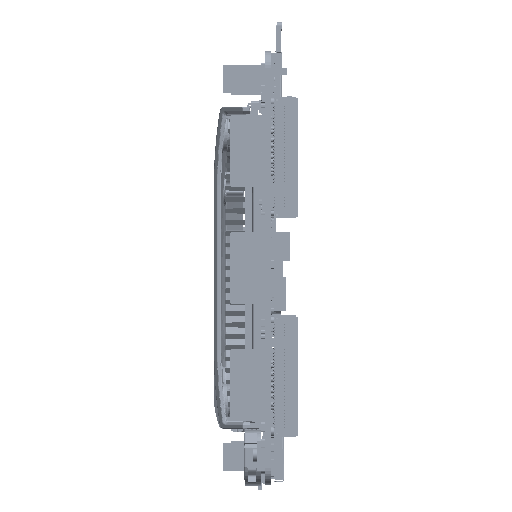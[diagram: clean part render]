
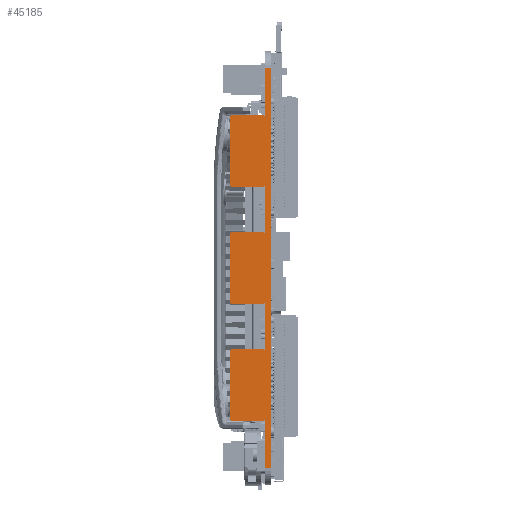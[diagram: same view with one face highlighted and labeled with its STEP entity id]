
A CAD part, left-side view. The second image highlights one B-rep face of the part: STEP entity #45185.
In plain terms, the highlighted planar face has unit normal (-1, 0, 0).
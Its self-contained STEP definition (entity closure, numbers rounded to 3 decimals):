
#15890=CIRCLE('',#523636,0.5);
#15891=CIRCLE('',#523637,0.5);
#15892=CIRCLE('',#523638,0.5);
#15893=CIRCLE('',#523639,0.5);
#15894=CIRCLE('',#523640,0.5);
#15895=CIRCLE('',#523641,0.5);
#15896=CIRCLE('',#523642,0.5);
#15897=CIRCLE('',#523643,0.5);
#15898=CIRCLE('',#523644,0.5);
#15899=CIRCLE('',#523645,0.5);
#15900=CIRCLE('',#523646,0.5);
#15901=CIRCLE('',#523647,0.5);
#45185=ADVANCED_FACE('',(#92146),#70527,.T.);
#70527=PLANE('',#523648);
#92146=FACE_OUTER_BOUND('',#119882,.T.);
#119882=EDGE_LOOP('',(#182157,#182158,#182159,#182160,#182161,#182162,#182163,
#182164,#182165,#182166,#182167,#182168,#182169,#182170,#182171,#182172,
#182173,#182174,#182175,#182176,#182177,#182178,#182179,#182180,#182181,
#182182,#182183,#182184));
#182157=ORIENTED_EDGE('',*,*,#351530,.T.);
#182158=ORIENTED_EDGE('',*,*,#352180,.F.);
#182159=ORIENTED_EDGE('',*,*,#347832,.F.);
#182160=ORIENTED_EDGE('',*,*,#352181,.T.);
#182161=ORIENTED_EDGE('',*,*,#352182,.T.);
#182162=ORIENTED_EDGE('',*,*,#352183,.T.);
#182163=ORIENTED_EDGE('',*,*,#352184,.F.);
#182164=ORIENTED_EDGE('',*,*,#352185,.T.);
#182165=ORIENTED_EDGE('',*,*,#352186,.F.);
#182166=ORIENTED_EDGE('',*,*,#352187,.T.);
#182167=ORIENTED_EDGE('',*,*,#347810,.F.);
#182168=ORIENTED_EDGE('',*,*,#352188,.T.);
#182169=ORIENTED_EDGE('',*,*,#352189,.T.);
#182170=ORIENTED_EDGE('',*,*,#352190,.T.);
#182171=ORIENTED_EDGE('',*,*,#352191,.F.);
#182172=ORIENTED_EDGE('',*,*,#352192,.T.);
#182173=ORIENTED_EDGE('',*,*,#352193,.F.);
#182174=ORIENTED_EDGE('',*,*,#352194,.T.);
#182175=ORIENTED_EDGE('',*,*,#347788,.F.);
#182176=ORIENTED_EDGE('',*,*,#352195,.T.);
#182177=ORIENTED_EDGE('',*,*,#352196,.T.);
#182178=ORIENTED_EDGE('',*,*,#352197,.T.);
#182179=ORIENTED_EDGE('',*,*,#352198,.F.);
#182180=ORIENTED_EDGE('',*,*,#352199,.T.);
#182181=ORIENTED_EDGE('',*,*,#352200,.F.);
#182182=ORIENTED_EDGE('',*,*,#352201,.T.);
#182183=ORIENTED_EDGE('',*,*,#347766,.F.);
#182184=ORIENTED_EDGE('',*,*,#352179,.T.);
#294403=VERTEX_POINT('',#730865);
#294404=VERTEX_POINT('',#730867);
#294425=VERTEX_POINT('',#730909);
#294426=VERTEX_POINT('',#730911);
#294447=VERTEX_POINT('',#730953);
#294448=VERTEX_POINT('',#730955);
#294469=VERTEX_POINT('',#730997);
#294470=VERTEX_POINT('',#730999);
#298167=VERTEX_POINT('',#738394);
#298168=VERTEX_POINT('',#738396);
#298567=VERTEX_POINT('',#739679);
#298568=VERTEX_POINT('',#739681);
#298569=VERTEX_POINT('',#739683);
#298570=VERTEX_POINT('',#739685);
#298571=VERTEX_POINT('',#739687);
#298572=VERTEX_POINT('',#739689);
#298573=VERTEX_POINT('',#739692);
#298574=VERTEX_POINT('',#739694);
#298575=VERTEX_POINT('',#739696);
#298576=VERTEX_POINT('',#739698);
#298577=VERTEX_POINT('',#739700);
#298578=VERTEX_POINT('',#739702);
#298579=VERTEX_POINT('',#739705);
#298580=VERTEX_POINT('',#739707);
#298581=VERTEX_POINT('',#739709);
#298582=VERTEX_POINT('',#739711);
#298583=VERTEX_POINT('',#739713);
#298584=VERTEX_POINT('',#739715);
#347766=EDGE_CURVE('',#294403,#294404,#415057,.T.);
#347788=EDGE_CURVE('',#294425,#294426,#415074,.T.);
#347810=EDGE_CURVE('',#294447,#294448,#415091,.T.);
#347832=EDGE_CURVE('',#294469,#294470,#415108,.T.);
#351530=EDGE_CURVE('',#298168,#298167,#417944,.T.);
#352179=EDGE_CURVE('',#294403,#298168,#418351,.T.);
#352180=EDGE_CURVE('',#294470,#298167,#418352,.T.);
#352181=EDGE_CURVE('',#294469,#298567,#15890,.T.);
#352182=EDGE_CURVE('',#298567,#298568,#418353,.T.);
#352183=EDGE_CURVE('',#298568,#298569,#15891,.T.);
#352184=EDGE_CURVE('',#298570,#298569,#418354,.T.);
#352185=EDGE_CURVE('',#298570,#298571,#15892,.T.);
#352186=EDGE_CURVE('',#298572,#298571,#418355,.T.);
#352187=EDGE_CURVE('',#298572,#294448,#15893,.T.);
#352188=EDGE_CURVE('',#294447,#298573,#15894,.T.);
#352189=EDGE_CURVE('',#298573,#298574,#418356,.T.);
#352190=EDGE_CURVE('',#298574,#298575,#15895,.T.);
#352191=EDGE_CURVE('',#298576,#298575,#418357,.T.);
#352192=EDGE_CURVE('',#298576,#298577,#15896,.T.);
#352193=EDGE_CURVE('',#298578,#298577,#418358,.T.);
#352194=EDGE_CURVE('',#298578,#294426,#15897,.T.);
#352195=EDGE_CURVE('',#294425,#298579,#15898,.T.);
#352196=EDGE_CURVE('',#298579,#298580,#418359,.T.);
#352197=EDGE_CURVE('',#298580,#298581,#15899,.T.);
#352198=EDGE_CURVE('',#298582,#298581,#418360,.T.);
#352199=EDGE_CURVE('',#298582,#298583,#15900,.T.);
#352200=EDGE_CURVE('',#298584,#298583,#418361,.T.);
#352201=EDGE_CURVE('',#298584,#294404,#15901,.T.);
#415057=LINE('',#730866,#470336);
#415074=LINE('',#730910,#470353);
#415091=LINE('',#730954,#470370);
#415108=LINE('',#730998,#470387);
#417944=LINE('',#738395,#473223);
#418351=LINE('',#739675,#473630);
#418352=LINE('',#739677,#473631);
#418353=LINE('',#739680,#473632);
#418354=LINE('',#739684,#473633);
#418355=LINE('',#739688,#473634);
#418356=LINE('',#739693,#473635);
#418357=LINE('',#739697,#473636);
#418358=LINE('',#739701,#473637);
#418359=LINE('',#739706,#473638);
#418360=LINE('',#739710,#473639);
#418361=LINE('',#739714,#473640);
#470336=VECTOR('',#591105,1.);
#470353=VECTOR('',#591132,1.);
#470370=VECTOR('',#591159,1.);
#470387=VECTOR('',#591186,1.);
#473223=VECTOR('',#595748,1.);
#473630=VECTOR('',#597071,1.);
#473631=VECTOR('',#597074,1.);
#473632=VECTOR('',#597077,1.);
#473633=VECTOR('',#597080,1.);
#473634=VECTOR('',#597083,1.);
#473635=VECTOR('',#597088,1.);
#473636=VECTOR('',#597091,1.);
#473637=VECTOR('',#597094,1.);
#473638=VECTOR('',#597099,1.);
#473639=VECTOR('',#597102,1.);
#473640=VECTOR('',#597105,1.);
#523636=AXIS2_PLACEMENT_3D('',#739678,#597075,#597076);
#523637=AXIS2_PLACEMENT_3D('',#739682,#597078,#597079);
#523638=AXIS2_PLACEMENT_3D('',#739686,#597081,#597082);
#523639=AXIS2_PLACEMENT_3D('',#739690,#597084,#597085);
#523640=AXIS2_PLACEMENT_3D('',#739691,#597086,#597087);
#523641=AXIS2_PLACEMENT_3D('',#739695,#597089,#597090);
#523642=AXIS2_PLACEMENT_3D('',#739699,#597092,#597093);
#523643=AXIS2_PLACEMENT_3D('',#739703,#597095,#597096);
#523644=AXIS2_PLACEMENT_3D('',#739704,#597097,#597098);
#523645=AXIS2_PLACEMENT_3D('',#739708,#597100,#597101);
#523646=AXIS2_PLACEMENT_3D('',#739712,#597103,#597104);
#523647=AXIS2_PLACEMENT_3D('',#739716,#597106,#597107);
#523648=AXIS2_PLACEMENT_3D('',#739717,#597108,#597109);
#591105=DIRECTION('',(0.,0.,1.));
#591132=DIRECTION('',(0.,0.,1.));
#591159=DIRECTION('',(0.,0.,1.));
#591186=DIRECTION('',(0.,0.,1.));
#595748=DIRECTION('',(0.,0.,1.));
#597071=DIRECTION('',(0.,-1.,0.));
#597074=DIRECTION('',(0.,-1.,0.));
#597075=DIRECTION('',(-1.,0.,0.));
#597076=DIRECTION('',(0.,-1.,0.));
#597077=DIRECTION('',(0.,1.,0.));
#597078=DIRECTION('',(-1.,0.,0.));
#597079=DIRECTION('',(0.,0.,1.));
#597080=DIRECTION('',(0.,0.,1.));
#597081=DIRECTION('',(-1.,0.,0.));
#597082=DIRECTION('',(0.,1.,0.));
#597083=DIRECTION('',(0.,1.,0.));
#597084=DIRECTION('',(-1.,0.,0.));
#597085=DIRECTION('',(0.,0.,-1.));
#597086=DIRECTION('',(-1.,0.,0.));
#597087=DIRECTION('',(0.,-1.,0.));
#597088=DIRECTION('',(0.,1.,0.));
#597089=DIRECTION('',(-1.,0.,0.));
#597090=DIRECTION('',(0.,0.,1.));
#597091=DIRECTION('',(0.,0.,1.));
#597092=DIRECTION('',(-1.,0.,0.));
#597093=DIRECTION('',(0.,1.,0.));
#597094=DIRECTION('',(0.,1.,0.));
#597095=DIRECTION('',(-1.,0.,0.));
#597096=DIRECTION('',(0.,0.,-1.));
#597097=DIRECTION('',(-1.,0.,0.));
#597098=DIRECTION('',(0.,-1.,0.));
#597099=DIRECTION('',(0.,1.,0.));
#597100=DIRECTION('',(-1.,0.,0.));
#597101=DIRECTION('',(0.,0.,1.));
#597102=DIRECTION('',(0.,0.,1.));
#597103=DIRECTION('',(-1.,0.,0.));
#597104=DIRECTION('',(0.,1.,0.));
#597105=DIRECTION('',(0.,1.,0.));
#597106=DIRECTION('',(-1.,0.,0.));
#597107=DIRECTION('',(0.,0.,-1.));
#597108=DIRECTION('',(-1.,0.,0.));
#597109=DIRECTION('',(0.,0.,-1.));
#730865=CARTESIAN_POINT('',(-57.5,7.294,-36.));
#730866=CARTESIAN_POINT('',(-57.5,7.294,-36.));
#730867=CARTESIAN_POINT('',(-57.5,7.294,-27.1));
#730909=CARTESIAN_POINT('',(-57.5,7.294,-15.));
#730910=CARTESIAN_POINT('',(-57.5,7.294,-36.));
#730911=CARTESIAN_POINT('',(-57.5,7.294,-6.05));
#730953=CARTESIAN_POINT('',(-57.5,7.294,6.05));
#730954=CARTESIAN_POINT('',(-57.5,7.294,-36.));
#730955=CARTESIAN_POINT('',(-57.5,7.294,15.));
#730997=CARTESIAN_POINT('',(-57.5,7.294,27.1));
#730998=CARTESIAN_POINT('',(-57.5,7.294,-36.));
#730999=CARTESIAN_POINT('',(-57.5,7.294,36.));
#738394=CARTESIAN_POINT('',(-57.5,6.194,36.));
#738395=CARTESIAN_POINT('',(-57.5,6.194,147.253));
#738396=CARTESIAN_POINT('',(-57.5,6.194,-36.));
#739675=CARTESIAN_POINT('',(-57.5,7.294,-36.));
#739677=CARTESIAN_POINT('',(-57.5,7.294,36.));
#739678=CARTESIAN_POINT('',(-57.5,7.794,27.1));
#739679=CARTESIAN_POINT('',(-57.5,7.794,27.6));
#739680=CARTESIAN_POINT('',(-57.5,7.794,27.6));
#739681=CARTESIAN_POINT('',(-57.5,13.054,27.6));
#739682=CARTESIAN_POINT('',(-57.5,13.054,27.1));
#739683=CARTESIAN_POINT('',(-57.5,13.554,27.1));
#739684=CARTESIAN_POINT('',(-57.5,13.554,15.));
#739685=CARTESIAN_POINT('',(-57.5,13.554,15.));
#739686=CARTESIAN_POINT('',(-57.5,13.054,15.));
#739687=CARTESIAN_POINT('',(-57.5,13.054,14.5));
#739688=CARTESIAN_POINT('',(-57.5,7.794,14.5));
#739689=CARTESIAN_POINT('',(-57.5,7.794,14.5));
#739690=CARTESIAN_POINT('',(-57.5,7.794,15.));
#739691=CARTESIAN_POINT('',(-57.5,7.794,6.05));
#739692=CARTESIAN_POINT('',(-57.5,7.794,6.55));
#739693=CARTESIAN_POINT('',(-57.5,7.794,6.55));
#739694=CARTESIAN_POINT('',(-57.5,13.054,6.55));
#739695=CARTESIAN_POINT('',(-57.5,13.054,6.05));
#739696=CARTESIAN_POINT('',(-57.5,13.554,6.05));
#739697=CARTESIAN_POINT('',(-57.5,13.554,-6.05));
#739698=CARTESIAN_POINT('',(-57.5,13.554,-6.05));
#739699=CARTESIAN_POINT('',(-57.5,13.054,-6.05));
#739700=CARTESIAN_POINT('',(-57.5,13.054,-6.55));
#739701=CARTESIAN_POINT('',(-57.5,7.794,-6.55));
#739702=CARTESIAN_POINT('',(-57.5,7.794,-6.55));
#739703=CARTESIAN_POINT('',(-57.5,7.794,-6.05));
#739704=CARTESIAN_POINT('',(-57.5,7.794,-15.));
#739705=CARTESIAN_POINT('',(-57.5,7.794,-14.5));
#739706=CARTESIAN_POINT('',(-57.5,7.794,-14.5));
#739707=CARTESIAN_POINT('',(-57.5,13.054,-14.5));
#739708=CARTESIAN_POINT('',(-57.5,13.054,-15.));
#739709=CARTESIAN_POINT('',(-57.5,13.554,-15.));
#739710=CARTESIAN_POINT('',(-57.5,13.554,-27.1));
#739711=CARTESIAN_POINT('',(-57.5,13.554,-27.1));
#739712=CARTESIAN_POINT('',(-57.5,13.054,-27.1));
#739713=CARTESIAN_POINT('',(-57.5,13.054,-27.6));
#739714=CARTESIAN_POINT('',(-57.5,7.794,-27.6));
#739715=CARTESIAN_POINT('',(-57.5,7.794,-27.6));
#739716=CARTESIAN_POINT('',(-57.5,7.794,-27.1));
#739717=CARTESIAN_POINT('',(-57.5,5.694,-39.));
